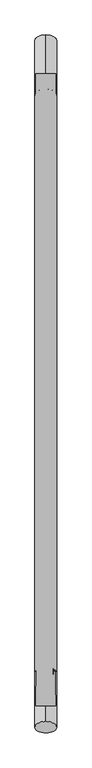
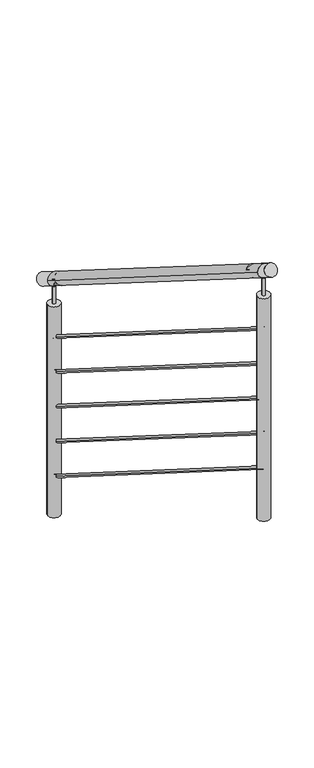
"""IFC4 building model written with IfcOpenShell, lengths in millimetres: railing geometry, Barandal escalera."""

from ifc_helpers import new_model, si_unit, point, frame, frame_2d, origin, place, context, project, spatial, circle_curve, ellipse_curve, trimmed, segment, composite_curve, outline, extrude, source, transform, mapped, element, save
from ifc_brep_helpers import plane_surface, cylinder_surface, advanced_brep


def railing_b4604de3(model_context):
    return source(origin(), model_context, "Body", "SolidModel", [
        advanced_brep(
        [(41764.9063728, 28011.0432167, -5310.5042017), (41714.1063728, 28011.0432167, -5310.5042017), (41764.9063728, 26531.0432167, -4377.7310924), (41714.1063728, 26531.0432167, -4377.7310924)],
        [
            (0, 1, ellipse_curve(frame((41739.5063728, 28011.0432167, -5310.5042017), z_axis=(0.0, 1.0, 0.0), x_axis=(0.0, 0.0, -1.0)), 30.0238069, 25.4)),
            (1, 0, ellipse_curve(frame((41739.5063728, 28011.0432167, -5310.5042017), z_axis=(0.0, 1.0, 0.0), x_axis=(0.0, 0.0, -1.0)), 30.0238069, 25.4)),
            (2, 3, ellipse_curve(frame((41739.5063728, 26531.0432167, -4377.7310924), z_axis=(0.0, -1.0, 0.0), x_axis=(0.0, 0.0, -1.0)), 30.0238069, 25.4)),
            (3, 2, ellipse_curve(frame((41739.5063728, 26531.0432167, -4377.7310924), z_axis=(0.0, -1.0, 0.0), x_axis=(0.0, 0.0, -1.0)), 30.0238069, 25.4)),
            (0, 2),
            (3, 1),
        ],
        [
            plane_surface(frame((41739.5063728, 28011.0432167, -5310.5042017), z_axis=(0.0, 1.0, 0.0), x_axis=(0.0, 0.0, -1.0))),
            plane_surface(frame((41739.5063728, 26531.0432167, -4377.7310924), z_axis=(0.0, -1.0, 0.0), x_axis=(0.0, 0.0, -1.0))),
            cylinder_surface(frame((41739.5063728, 28011.0432167, -5310.5042017), z_axis=(0.0, 0.8459953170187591, -0.5331903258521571), x_axis=(-1.0, 0.0, 0.0)), 25.4),
        ],
        [
            (0, [[1, 2]]),
            (1, [[3, 4]]),
            (2, [[-1, 5, -4, 6]]),
            (2, [[-2, -6, -3, -5]]),
        ],
    ),
        advanced_brep(
        [(41745.8563728, 28011.0432167, -5560.5042017), (41733.1563728, 28011.0432167, -5560.5042017), (41745.8563728, 26531.0432167, -4627.7310924), (41733.1563728, 26531.0432167, -4627.7310924)],
        [
            (0, 1, ellipse_curve(frame((41739.5063728, 28011.0432167, -5560.5042017), z_axis=(0.0, 1.0, 0.0), x_axis=(0.0, 0.0, -1.0)), 7.5059517, 6.35)),
            (1, 0, ellipse_curve(frame((41739.5063728, 28011.0432167, -5560.5042017), z_axis=(0.0, 1.0, 0.0), x_axis=(0.0, 0.0, -1.0)), 7.5059517, 6.35)),
            (2, 3, ellipse_curve(frame((41739.5063728, 26531.0432167, -4627.7310924), z_axis=(0.0, -1.0, 0.0), x_axis=(0.0, 0.0, -1.0)), 7.5059517, 6.35)),
            (3, 2, ellipse_curve(frame((41739.5063728, 26531.0432167, -4627.7310924), z_axis=(0.0, -1.0, 0.0), x_axis=(0.0, 0.0, -1.0)), 7.5059517, 6.35)),
            (0, 2),
            (3, 1),
        ],
        [
            plane_surface(frame((41739.5063728, 28011.0432167, -5560.5042017), z_axis=(0.0, 1.0, 0.0), x_axis=(0.0, 0.0, -1.0))),
            plane_surface(frame((41739.5063728, 26531.0432167, -4627.7310924), z_axis=(0.0, -1.0, 0.0), x_axis=(0.0, 0.0, -1.0))),
            cylinder_surface(frame((41739.5063728, 28011.0432167, -5560.5042017), z_axis=(0.0, 0.8459953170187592, -0.5331903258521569), x_axis=(-1.0, 0.0, 0.0)), 6.35),
        ],
        [
            (0, [[1, 2]]),
            (1, [[3, 4]]),
            (2, [[-1, 5, -4, 6]]),
            (2, [[-2, -6, -3, -5]]),
        ],
    ),
        advanced_brep(
        [(41745.8563728, 28011.0432167, -5710.5042017), (41733.1563728, 28011.0432167, -5710.5042017), (41745.8563728, 26531.0432167, -4777.7310924), (41733.1563728, 26531.0432167, -4777.7310924)],
        [
            (0, 1, ellipse_curve(frame((41739.5063728, 28011.0432167, -5710.5042017), z_axis=(0.0, 1.0, 0.0), x_axis=(0.0, 0.0, -1.0)), 7.5059517, 6.35)),
            (1, 0, ellipse_curve(frame((41739.5063728, 28011.0432167, -5710.5042017), z_axis=(0.0, 1.0, 0.0), x_axis=(0.0, 0.0, -1.0)), 7.5059517, 6.35)),
            (2, 3, ellipse_curve(frame((41739.5063728, 26531.0432167, -4777.7310924), z_axis=(0.0, -1.0, 0.0), x_axis=(0.0, 0.0, -1.0)), 7.5059517, 6.35)),
            (3, 2, ellipse_curve(frame((41739.5063728, 26531.0432167, -4777.7310924), z_axis=(0.0, -1.0, 0.0), x_axis=(0.0, 0.0, -1.0)), 7.5059517, 6.35)),
            (0, 2),
            (3, 1),
        ],
        [
            plane_surface(frame((41739.5063728, 28011.0432167, -5710.5042017), z_axis=(0.0, 1.0, 0.0), x_axis=(0.0, 0.0, -1.0))),
            plane_surface(frame((41739.5063728, 26531.0432167, -4777.7310924), z_axis=(0.0, -1.0, 0.0), x_axis=(0.0, 0.0, -1.0))),
            cylinder_surface(frame((41739.5063728, 28011.0432167, -5710.5042017), z_axis=(0.0, 0.8459953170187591, -0.5331903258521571), x_axis=(-1.0, 0.0, 0.0)), 6.35),
        ],
        [
            (0, [[1, 2]]),
            (1, [[3, 4]]),
            (2, [[-1, 5, -4, 6]]),
            (2, [[-2, -6, -3, -5]]),
        ],
    ),
        advanced_brep(
        [(41745.8563728, 28011.0432167, -5860.5042017), (41733.1563728, 28011.0432167, -5860.5042017), (41745.8563728, 26531.0432167, -4927.7310924), (41733.1563728, 26531.0432167, -4927.7310924)],
        [
            (0, 1, ellipse_curve(frame((41739.5063728, 28011.0432167, -5860.5042017), z_axis=(0.0, 1.0, 0.0), x_axis=(0.0, 0.0, -1.0)), 7.5059517, 6.35)),
            (1, 0, ellipse_curve(frame((41739.5063728, 28011.0432167, -5860.5042017), z_axis=(0.0, 1.0, 0.0), x_axis=(0.0, 0.0, -1.0)), 7.5059517, 6.35)),
            (2, 3, ellipse_curve(frame((41739.5063728, 26531.0432167, -4927.7310924), z_axis=(0.0, -1.0, 0.0), x_axis=(0.0, 0.0, -1.0)), 7.5059517, 6.35)),
            (3, 2, ellipse_curve(frame((41739.5063728, 26531.0432167, -4927.7310924), z_axis=(0.0, -1.0, 0.0), x_axis=(0.0, 0.0, -1.0)), 7.5059517, 6.35)),
            (0, 2),
            (3, 1),
        ],
        [
            plane_surface(frame((41739.5063728, 28011.0432167, -5860.5042017), z_axis=(0.0, 1.0, 0.0), x_axis=(0.0, 0.0, -1.0))),
            plane_surface(frame((41739.5063728, 26531.0432167, -4927.7310924), z_axis=(0.0, -1.0, 0.0), x_axis=(0.0, 0.0, -1.0))),
            cylinder_surface(frame((41739.5063728, 28011.0432167, -5860.5042017), z_axis=(0.0, 0.8459953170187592, -0.5331903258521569), x_axis=(-1.0, 0.0, 0.0)), 6.35),
        ],
        [
            (0, [[1, 2]]),
            (1, [[3, 4]]),
            (2, [[-1, 5, -4, 6]]),
            (2, [[-2, -6, -3, -5]]),
        ],
    ),
        advanced_brep(
        [(41745.8563728, 28011.0432167, -6010.5042017), (41733.1563728, 28011.0432167, -6010.5042017), (41745.8563728, 26531.0432167, -5077.7310924), (41733.1563728, 26531.0432167, -5077.7310924)],
        [
            (0, 1, ellipse_curve(frame((41739.5063728, 28011.0432167, -6010.5042017), z_axis=(0.0, 1.0, 0.0), x_axis=(0.0, 0.0, -1.0)), 7.5059517, 6.35)),
            (1, 0, ellipse_curve(frame((41739.5063728, 28011.0432167, -6010.5042017), z_axis=(0.0, 1.0, 0.0), x_axis=(0.0, 0.0, -1.0)), 7.5059517, 6.35)),
            (2, 3, ellipse_curve(frame((41739.5063728, 26531.0432167, -5077.7310924), z_axis=(0.0, -1.0, 0.0), x_axis=(0.0, 0.0, -1.0)), 7.5059517, 6.35)),
            (3, 2, ellipse_curve(frame((41739.5063728, 26531.0432167, -5077.7310924), z_axis=(0.0, -1.0, 0.0), x_axis=(0.0, 0.0, -1.0)), 7.5059517, 6.35)),
            (0, 2),
            (3, 1),
        ],
        [
            plane_surface(frame((41739.5063728, 28011.0432167, -6010.5042017), z_axis=(0.0, 1.0, 0.0), x_axis=(0.0, 0.0, -1.0))),
            plane_surface(frame((41739.5063728, 26531.0432167, -5077.7310924), z_axis=(0.0, -1.0, 0.0), x_axis=(0.0, 0.0, -1.0))),
            cylinder_surface(frame((41739.5063728, 28011.0432167, -6010.5042017), z_axis=(0.0, 0.8459953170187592, -0.5331903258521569), x_axis=(-1.0, 0.0, 0.0)), 6.35),
        ],
        [
            (0, [[1, 2]]),
            (1, [[3, 4]]),
            (2, [[-1, 5, -4, 6]]),
            (2, [[-2, -6, -3, -5]]),
        ],
    ),
        advanced_brep(
        [(41745.8563728, 28011.0432167, -6160.5042017), (41733.1563728, 28011.0432167, -6160.5042017), (41745.8563728, 26531.0432167, -5227.7310924), (41733.1563728, 26531.0432167, -5227.7310924)],
        [
            (0, 1, ellipse_curve(frame((41739.5063728, 28011.0432167, -6160.5042017), z_axis=(0.0, 1.0, 0.0), x_axis=(0.0, 0.0, -1.0)), 7.5059517, 6.35)),
            (1, 0, ellipse_curve(frame((41739.5063728, 28011.0432167, -6160.5042017), z_axis=(0.0, 1.0, 0.0), x_axis=(0.0, 0.0, -1.0)), 7.5059517, 6.35)),
            (2, 3, ellipse_curve(frame((41739.5063728, 26531.0432167, -5227.7310924), z_axis=(0.0, -1.0, 0.0), x_axis=(0.0, 0.0, -1.0)), 7.5059517, 6.35)),
            (3, 2, ellipse_curve(frame((41739.5063728, 26531.0432167, -5227.7310924), z_axis=(0.0, -1.0, 0.0), x_axis=(0.0, 0.0, -1.0)), 7.5059517, 6.35)),
            (0, 2),
            (3, 1),
        ],
        [
            plane_surface(frame((41739.5063728, 28011.0432167, -6160.5042017), z_axis=(0.0, 1.0, 0.0), x_axis=(0.0, 0.0, -1.0))),
            plane_surface(frame((41739.5063728, 26531.0432167, -5227.7310924), z_axis=(0.0, -1.0, 0.0), x_axis=(0.0, 0.0, -1.0))),
            cylinder_surface(frame((41739.5063728, 28011.0432167, -6160.5042017), z_axis=(0.0, 0.8459953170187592, -0.5331903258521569), x_axis=(-1.0, 0.0, 0.0)), 6.35),
        ],
        [
            (0, [[1, 2]]),
            (1, [[3, 4]]),
            (2, [[-1, 5, -4, 6]]),
            (2, [[-2, -6, -3, -5]]),
        ],
    ),
        extrude(outline(composite_curve([segment(trimmed(circle_curve(frame_2d((0.0, 25.4)), 25.4), [point((0.0, 0.0))], [point((0.0, 50.8))], False, "CARTESIAN"), True, "CONTINUOUS"), segment(trimmed(circle_curve(frame_2d((0.0, 25.4)), 25.4), [point((0.0, 50.8))], [point((0.0, 0.0))], False, "CARTESIAN"), True, "CONTINUOUS")], self_intersect=False)), frame((41739.5063728, 26594.646824, -4447.4988441), z_axis=(0.0, -0.848048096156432, 0.5299192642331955), x_axis=(1.0, 0.0, 0.0)), (0.0, 0.0, 1.0), 150.0),
        extrude(outline(composite_curve([segment(trimmed(circle_curve(frame_2d((41739.5063728, 26531.0432167)), 6.35), [point((41733.1563728, 26531.0432167))], [point((41745.8563728, 26531.0432167))], False, "CARTESIAN"), True, "CONTINUOUS"), segment(trimmed(circle_curve(frame_2d((41739.5063728, 26531.0432167)), 6.35), [point((41745.8563728, 26531.0432167))], [point((41733.1563728, 26531.0432167))], False, "CARTESIAN"), True, "CONTINUOUS")], self_intersect=False)), frame((0.0, 0.0, -4482.7548993), z_axis=(0.0, 0.0, 1.0), x_axis=(1.0, 0.0, 0.0)), (0.0, 0.0, 1.0), 75.0),
        extrude(outline(composite_curve([segment(trimmed(circle_curve(frame_2d((41739.5063728, 26531.0432167)), 25.4), [point((41714.1063728, 26531.0432167))], [point((41764.9063728, 26531.0432167))], False, "CARTESIAN"), True, "CONTINUOUS"), segment(trimmed(circle_curve(frame_2d((41739.5063728, 26531.0432167)), 25.4), [point((41764.9063728, 26531.0432167))], [point((41714.1063728, 26531.0432167))], False, "CARTESIAN"), True, "CONTINUOUS")], self_intersect=False)), frame((0.0, 0.0, -5441.1764706), z_axis=(0.0, 0.0, 1.0), x_axis=(1.0, 0.0, 0.0)), (0.0, 0.0, 1.0), 958.4215713),
        extrude(outline(composite_curve([segment(trimmed(circle_curve(frame_2d((0.0, 25.4)), 25.4), [point((0.0, 0.0))], [point((0.0, 50.8))], False, "CARTESIAN"), True, "CONTINUOUS"), segment(trimmed(circle_curve(frame_2d((0.0, 25.4)), 25.4), [point((0.0, 50.8))], [point((0.0, 0.0))], False, "CARTESIAN"), True, "CONTINUOUS")], self_intersect=False)), frame((41739.5063728, 28074.646824, -5380.2719534), z_axis=(0.0, -0.8480480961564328, 0.5299192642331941), x_axis=(1.0, 0.0, 0.0)), (0.0, 0.0, 1.0), 150.0),
        extrude(outline(composite_curve([segment(trimmed(circle_curve(frame_2d((41739.5063728, 28011.0432167)), 6.35), [point((41733.1563728, 28011.0432167))], [point((41745.8563728, 28011.0432167))], False, "CARTESIAN"), True, "CONTINUOUS"), segment(trimmed(circle_curve(frame_2d((41739.5063728, 28011.0432167)), 6.35), [point((41745.8563728, 28011.0432167))], [point((41733.1563728, 28011.0432167))], False, "CARTESIAN"), True, "CONTINUOUS")], self_intersect=False)), frame((0.0, 0.0, -5415.5280085), z_axis=(0.0, 0.0, 1.0), x_axis=(1.0, 0.0, 0.0)), (0.0, 0.0, 1.0), 75.0),
        extrude(outline(composite_curve([segment(trimmed(circle_curve(frame_2d((41739.5063728, 28011.0432167)), 25.4), [point((41714.1063728, 28011.0432167))], [point((41764.9063728, 28011.0432167))], False, "CARTESIAN"), True, "CONTINUOUS"), segment(trimmed(circle_curve(frame_2d((41739.5063728, 28011.0432167)), 25.4), [point((41764.9063728, 28011.0432167))], [point((41714.1063728, 28011.0432167))], False, "CARTESIAN"), True, "CONTINUOUS")], self_intersect=False)), frame((0.0, 0.0, -6323.5294118), z_axis=(0.0, 0.0, 1.0), x_axis=(1.0, 0.0, 0.0)), (0.0, 0.0, 1.0), 908.0014032),
    ])


if __name__ == "__main__":
    model = new_model("IFC4")
    model_context = context("Model", 3, world=origin())
    ifc_project = project(units=[si_unit("LENGTHUNIT", "METRE", prefix="MILLI")], contexts=[model_context])
    site = spatial("IfcSite", under=ifc_project)
    building = spatial("IfcBuilding", under=site)
    placement = place(None, origin())
    railing_shape = railing_b4604de3(model_context)
    element("IfcRailing", 1, ObjectType="Barandal escalera", at=placement, inside=building, context=model_context, shape_type="MappedRepresentation", body=[
        mapped(railing_shape, transform((0.0, 0.0, 0.0), x_axis=(1.0, 0.0, 0.0), y_axis=(0.0, 1.0, 0.0), z_axis=(0.0, 0.0, 1.0))),
    ])
    save(model, "model.ifc")
